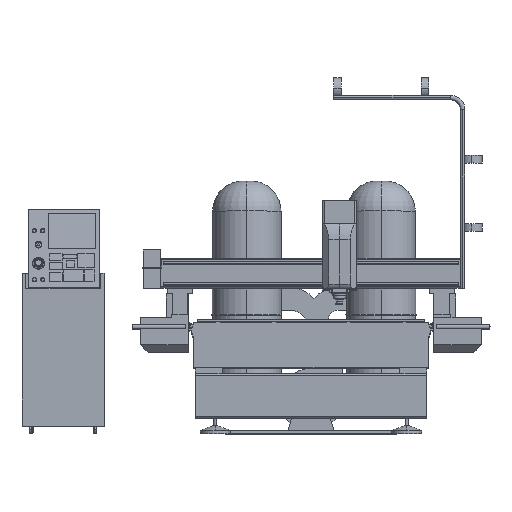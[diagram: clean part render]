
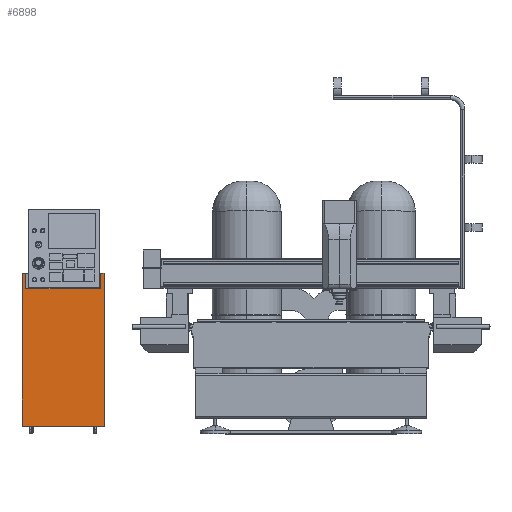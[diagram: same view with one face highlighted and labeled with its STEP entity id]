
A CAD part, top view. The second image highlights one B-rep face of the part: STEP entity #6898.
In plain terms, the highlighted planar face has unit normal (0, 0, 1).
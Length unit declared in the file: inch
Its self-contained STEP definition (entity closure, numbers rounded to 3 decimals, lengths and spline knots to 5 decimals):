
#598 = CARTESIAN_POINT ( 'NONE',  ( 20.04952, -29.39814, 194.90123 ) ) ;
#1170 = ORIENTED_EDGE ( 'NONE', *, *, #25292, .F. ) ;
#2194 = EDGE_CURVE ( 'NONE', #43839, #25959, #5658, .T. ) ;
#2196 = DIRECTION ( 'NONE',  ( 1., 0., 0. ) ) ;
#2658 = ORIENTED_EDGE ( 'NONE', *, *, #4053, .T. ) ;
#4053 = EDGE_CURVE ( 'NONE', #22826, #53810, #19123, .T. ) ;
#4226 = ORIENTED_EDGE ( 'NONE', *, *, #2194, .T. ) ;
#5658 = LINE ( 'NONE', #22683, #24451 ) ;
#5720 = LINE ( 'NONE', #48002, #32889 ) ;
#6700 = CARTESIAN_POINT ( 'NONE',  ( 20.04952, -29.39814, 194.90123 ) ) ;
#6855 = EDGE_CURVE ( 'NONE', #55629, #49464, #42003, .T. ) ;
#6898 = ADVANCED_FACE ( 'NONE', ( #41413 ), #46223, .F. ) ;
#8516 = VECTOR ( 'NONE', #42169, 39.37008 ) ;
#9197 = ORIENTED_EDGE ( 'NONE', *, *, #55051, .T. ) ;
#14146 = CARTESIAN_POINT ( 'NONE',  ( 20.04952, 10.88454, 194.90123 ) ) ;
#14794 = DIRECTION ( 'NONE',  ( 1., 0., 0. ) ) ;
#15166 = LINE ( 'NONE', #43279, #32342 ) ;
#18579 = CARTESIAN_POINT ( 'NONE',  ( 41.70307, -29.39814, 194.90123 ) ) ;
#19019 = CARTESIAN_POINT ( 'NONE',  ( 41.70307, -29.39814, 194.90123 ) ) ;
#19123 = LINE ( 'NONE', #41810, #53557 ) ;
#20817 = LINE ( 'NONE', #56479, #45510 ) ;
#22379 = DIRECTION ( 'NONE',  ( 0., 0., -1. ) ) ;
#22683 = CARTESIAN_POINT ( 'NONE',  ( 21.06952, -29.39814, 194.90123 ) ) ;
#22826 = VERTEX_POINT ( 'NONE', #53993 ) ;
#24107 = DIRECTION ( 'NONE',  ( 0., 1., 0. ) ) ;
#24451 = VECTOR ( 'NONE', #24107, 39.37008 ) ;
#24994 = VECTOR ( 'NONE', #2196, 39.37008 ) ;
#25292 = EDGE_CURVE ( 'NONE', #38010, #55629, #15166, .T. ) ;
#25959 = VERTEX_POINT ( 'NONE', #51785 ) ;
#29115 = VECTOR ( 'NONE', #41109, 39.37008 ) ;
#29604 = DIRECTION ( 'NONE',  ( 1., 0., 0. ) ) ;
#30969 = CARTESIAN_POINT ( 'NONE',  ( 21.06952, 6.88454, 194.90123 ) ) ;
#31008 = ORIENTED_EDGE ( 'NONE', *, *, #45236, .F. ) ;
#31417 = LINE ( 'NONE', #34849, #24994 ) ;
#31498 = CARTESIAN_POINT ( 'NONE',  ( 41.70307, 10.88454, 194.90123 ) ) ;
#32342 = VECTOR ( 'NONE', #33911, 39.37008 ) ;
#32889 = VECTOR ( 'NONE', #29604, 39.37008 ) ;
#33526 = VERTEX_POINT ( 'NONE', #31498 ) ;
#33911 = DIRECTION ( 'NONE',  ( -1., 0., 0. ) ) ;
#34849 = CARTESIAN_POINT ( 'NONE',  ( 41.70307, 6.88454, 194.90123 ) ) ;
#37919 = LINE ( 'NONE', #18579, #8516 ) ;
#38010 = VERTEX_POINT ( 'NONE', #55766 ) ;
#41109 = DIRECTION ( 'NONE',  ( 0., 1., 0. ) ) ;
#41413 = FACE_OUTER_BOUND ( 'NONE', #41624, .T. ) ;
#41624 = EDGE_LOOP ( 'NONE', ( #31008, #2658, #46792, #4226, #42735, #57259, #1170, #9197 ) ) ;
#41810 = CARTESIAN_POINT ( 'NONE',  ( 40.68307, -29.39814, 194.90123 ) ) ;
#42003 = LINE ( 'NONE', #598, #29115 ) ;
#42169 = DIRECTION ( 'NONE',  ( 0., 1., 0. ) ) ;
#42735 = ORIENTED_EDGE ( 'NONE', *, *, #46460, .F. ) ;
#43279 = CARTESIAN_POINT ( 'NONE',  ( 41.70307, -29.39814, 194.90123 ) ) ;
#43839 = VERTEX_POINT ( 'NONE', #30969 ) ;
#45236 = EDGE_CURVE ( 'NONE', #22826, #33526, #5720, .T. ) ;
#45510 = VECTOR ( 'NONE', #14794, 39.37008 ) ;
#46025 = DIRECTION ( 'NONE',  ( 0., -1., 0. ) ) ;
#46223 = PLANE ( 'NONE',  #56135 ) ;
#46460 = EDGE_CURVE ( 'NONE', #49464, #25959, #20817, .T. ) ;
#46792 = ORIENTED_EDGE ( 'NONE', *, *, #58460, .F. ) ;
#48002 = CARTESIAN_POINT ( 'NONE',  ( -22.40632, 10.88454, 194.90123 ) ) ;
#49464 = VERTEX_POINT ( 'NONE', #14146 ) ;
#49834 = CARTESIAN_POINT ( 'NONE',  ( 40.68307, 6.88454, 194.90123 ) ) ;
#50442 = DIRECTION ( 'NONE',  ( -1., 0., 0. ) ) ;
#51785 = CARTESIAN_POINT ( 'NONE',  ( 21.06952, 10.88454, 194.90123 ) ) ;
#53557 = VECTOR ( 'NONE', #46025, 39.37008 ) ;
#53810 = VERTEX_POINT ( 'NONE', #49834 ) ;
#53993 = CARTESIAN_POINT ( 'NONE',  ( 40.68307, 10.88454, 194.90123 ) ) ;
#55051 = EDGE_CURVE ( 'NONE', #38010, #33526, #37919, .T. ) ;
#55629 = VERTEX_POINT ( 'NONE', #6700 ) ;
#55766 = CARTESIAN_POINT ( 'NONE',  ( 41.70307, -29.39814, 194.90123 ) ) ;
#56135 = AXIS2_PLACEMENT_3D ( 'NONE', #19019, #22379, #50442 ) ;
#56479 = CARTESIAN_POINT ( 'NONE',  ( -22.40632, 10.88454, 194.90123 ) ) ;
#57259 = ORIENTED_EDGE ( 'NONE', *, *, #6855, .F. ) ;
#58460 = EDGE_CURVE ( 'NONE', #43839, #53810, #31417, .T. ) ;
